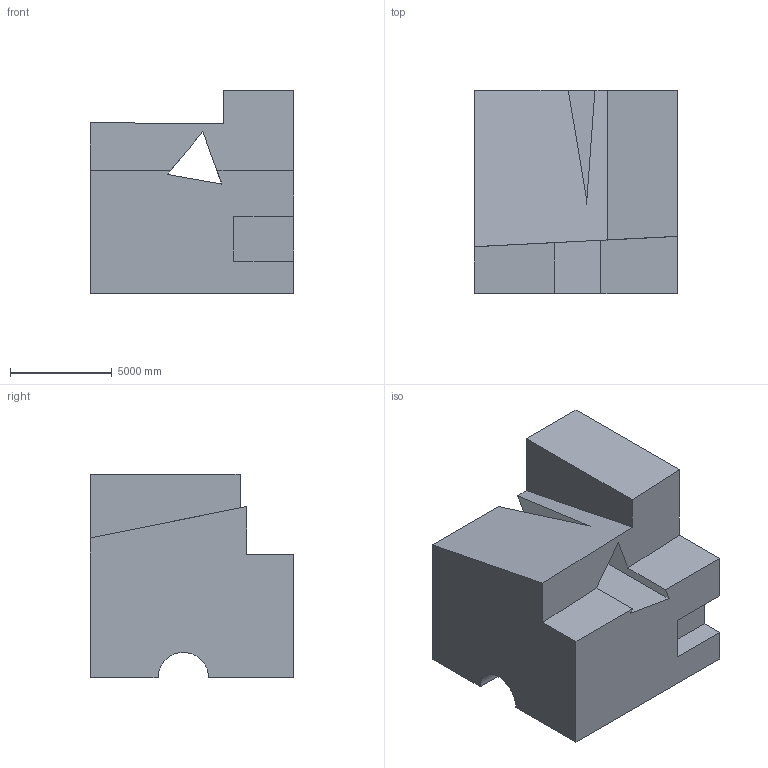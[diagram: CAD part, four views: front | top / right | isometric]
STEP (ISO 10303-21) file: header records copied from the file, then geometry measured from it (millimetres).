
FILE_DESCRIPTION (( 'STEP AP203' ), '1' );
FILE_NAME ('1515.STEP', '2022-08-18T14:58:15', ( 'user' ), ( '' ), 'SwSTEP 2.0', 'SolidWorks 2021', '' );
FILE_SCHEMA (( 'CONFIG_CONTROL_DESIGN' ));
Length unit declared in the file: centimetre
Products named in the file (1): 1515
Bounding box: 10000 x 10000 x 10000 mm (x, y, z)
Volume: 711054096679.4 mm3; surface area: 628343878.7 mm2
Topology: 1 solids, 1 shells, 24 faces, 72 edges, 48 vertices
Faces by surface type: plane 23, cylinder 1
Entity records: 879 total; most frequent: CARTESIAN_POINT 145, ORIENTED_EDGE 144, DIRECTION 124, EDGE_CURVE 72, VECTOR 70, LINE 70, VERTEX_POINT 48, AXIS2_PLACEMENT_3D 27
